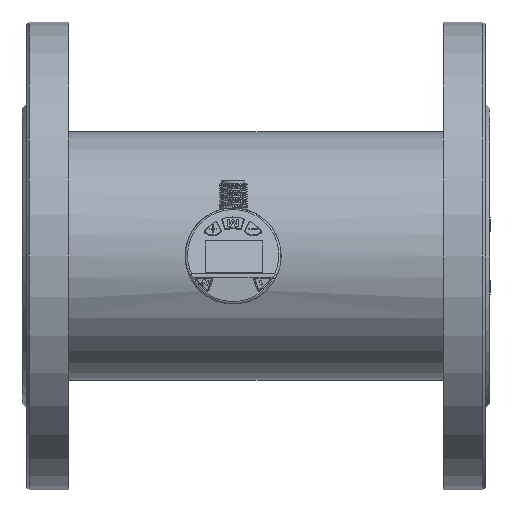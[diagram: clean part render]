
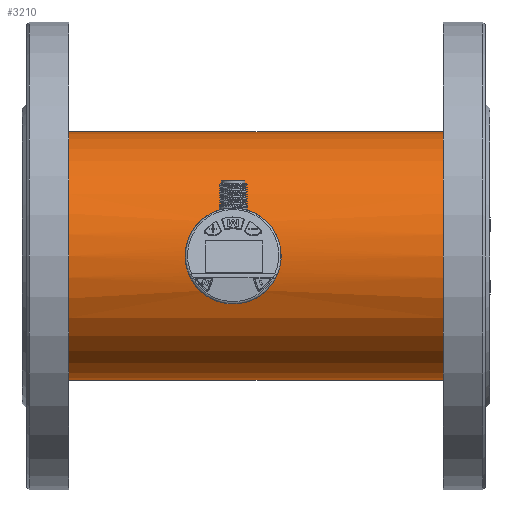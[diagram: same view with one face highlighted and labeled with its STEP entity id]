
A CAD part, left-side view. The second image highlights one B-rep face of the part: STEP entity #3210.
In plain terms, the highlighted cylindrical face has radius 53 mm (diameter 106 mm), a full revolution.
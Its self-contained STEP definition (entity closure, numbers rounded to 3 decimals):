
#2054=B_SPLINE_CURVE_WITH_KNOTS('',3,(#12218,#12219,#12220,#12221,#12222,
#12223,#12224,#12225,#12226,#12227),.UNSPECIFIED.,.F.,.F.,(4,2,2,2,4),(0.,
0.25,0.5,0.75,1.),.UNSPECIFIED.);
#2055=B_SPLINE_CURVE_WITH_KNOTS('',3,(#12231,#12232,#12233,#12234,#12235,
#12236,#12237,#12238,#12239,#12240),.UNSPECIFIED.,.F.,.F.,(4,2,2,2,4),(0.,
0.25,0.5,0.75,1.),.UNSPECIFIED.);
#2242=LINE('',#12215,#2634);
#2243=LINE('',#12229,#2635);
#2634=VECTOR('',#10055,1.);
#2635=VECTOR('',#10056,1.);
#3210=ADVANCED_FACE('',(#3891,#3892,#3893),#3686,.T.);
#3686=CYLINDRICAL_SURFACE('',#9093,53.);
#3891=FACE_BOUND('',#4166,.T.);
#3892=FACE_BOUND('',#4167,.T.);
#3893=FACE_BOUND('',#4168,.T.);
#4166=EDGE_LOOP('',(#4806));
#4167=EDGE_LOOP('',(#4807,#4808,#4809,#4810));
#4168=EDGE_LOOP('',(#4811));
#4806=ORIENTED_EDGE('',*,*,#7575,.F.);
#4807=ORIENTED_EDGE('',*,*,#7576,.F.);
#4808=ORIENTED_EDGE('',*,*,#7577,.T.);
#4809=ORIENTED_EDGE('',*,*,#7578,.F.);
#4810=ORIENTED_EDGE('',*,*,#7579,.T.);
#4811=ORIENTED_EDGE('',*,*,#7574,.F.);
#6878=VERTEX_POINT('',#12211);
#6879=VERTEX_POINT('',#12214);
#6880=VERTEX_POINT('',#12216);
#6881=VERTEX_POINT('',#12217);
#6882=VERTEX_POINT('',#12228);
#6883=VERTEX_POINT('',#12230);
#7574=EDGE_CURVE('',#6878,#6878,#8615,.T.);
#7575=EDGE_CURVE('',#6879,#6879,#8616,.T.);
#7576=EDGE_CURVE('',#6880,#6881,#2242,.T.);
#7577=EDGE_CURVE('',#6880,#6882,#2054,.T.);
#7578=EDGE_CURVE('',#6883,#6882,#2243,.T.);
#7579=EDGE_CURVE('',#6883,#6881,#2055,.T.);
#8615=CIRCLE('',#9090,53.);
#8616=CIRCLE('',#9092,53.);
#9090=AXIS2_PLACEMENT_3D('',#12210,#10049,#10050);
#9092=AXIS2_PLACEMENT_3D('',#12213,#10053,#10054);
#9093=AXIS2_PLACEMENT_3D('',#12241,#10057,#10058);
#10049=DIRECTION('',(0.,1.,0.));
#10050=DIRECTION('',(1.,0.,0.));
#10053=DIRECTION('',(0.,-1.,0.));
#10054=DIRECTION('',(1.,0.,0.));
#10055=DIRECTION('',(0.,-1.,0.));
#10056=DIRECTION('',(0.,1.,0.));
#10057=DIRECTION('',(0.,-1.,0.));
#10058=DIRECTION('',(1.,0.,0.));
#12210=CARTESIAN_POINT('',(0.,-13.6,0.));
#12211=CARTESIAN_POINT('',(53.,-13.6,0.));
#12213=CARTESIAN_POINT('',(0.,-173.6,0.));
#12214=CARTESIAN_POINT('',(53.,-173.6,0.));
#12215=CARTESIAN_POINT('',(-51.,-83.841,-14.422));
#12216=CARTESIAN_POINT('',(-51.,-77.981,-14.422));
#12217=CARTESIAN_POINT('',(-51.,-89.701,-14.422));
#12218=CARTESIAN_POINT('',(-51.,-77.981,-14.422));
#12219=CARTESIAN_POINT('',(-51.337,-75.143,-13.232));
#12220=CARTESIAN_POINT('',(-51.868,-72.738,-11.197));
#12221=CARTESIAN_POINT('',(-52.709,-69.403,-6.117));
#12222=CARTESIAN_POINT('',(-53.,-68.49,-3.092));
#12223=CARTESIAN_POINT('',(-53.,-68.489,3.081));
#12224=CARTESIAN_POINT('',(-52.708,-69.405,6.121));
#12225=CARTESIAN_POINT('',(-51.868,-72.734,11.194));
#12226=CARTESIAN_POINT('',(-51.337,-75.144,13.23));
#12227=CARTESIAN_POINT('',(-51.,-77.982,14.422));
#12228=CARTESIAN_POINT('',(-51.,-77.982,14.422));
#12229=CARTESIAN_POINT('',(-51.,-1000.,14.422));
#12230=CARTESIAN_POINT('',(-51.,-89.701,14.422));
#12231=CARTESIAN_POINT('',(-51.,-89.701,14.422));
#12232=CARTESIAN_POINT('',(-51.337,-92.539,13.229));
#12233=CARTESIAN_POINT('',(-51.868,-94.948,11.197));
#12234=CARTESIAN_POINT('',(-52.709,-98.282,6.117));
#12235=CARTESIAN_POINT('',(-53.,-99.192,3.091));
#12236=CARTESIAN_POINT('',(-53.,-99.196,-3.083));
#12237=CARTESIAN_POINT('',(-52.708,-98.278,-6.122));
#12238=CARTESIAN_POINT('',(-51.868,-94.949,-11.196));
#12239=CARTESIAN_POINT('',(-51.337,-92.539,-13.23));
#12240=CARTESIAN_POINT('',(-51.,-89.701,-14.422));
#12241=CARTESIAN_POINT('',(0.,-1000.,0.));
